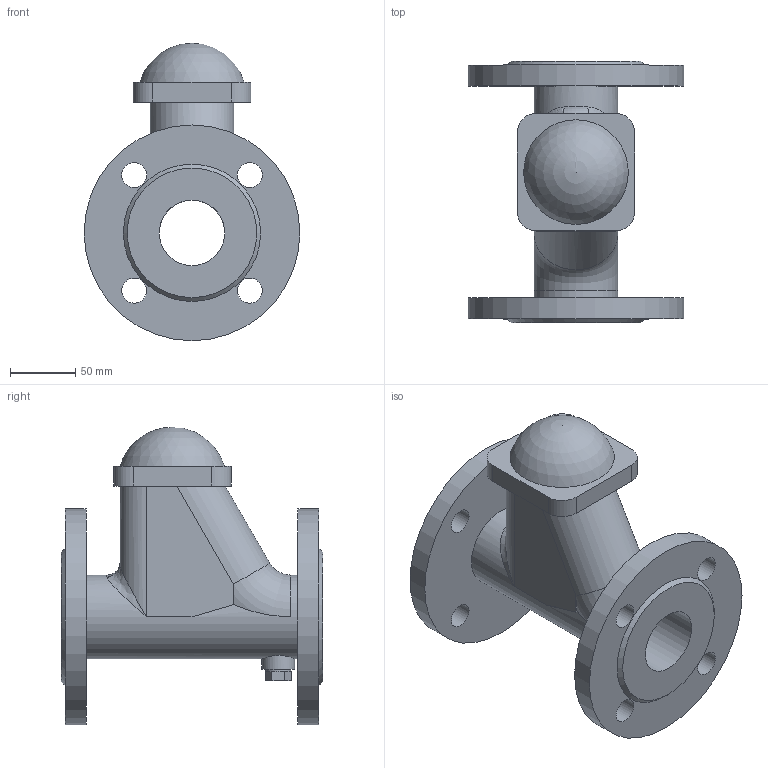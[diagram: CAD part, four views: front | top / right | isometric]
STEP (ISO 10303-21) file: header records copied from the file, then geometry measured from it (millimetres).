
FILE_DESCRIPTION(('STEP AP203'), '1');
FILE_NAME('Êëàïàí îáðàòíûé øàðîâîé ôëàíöåâûé 012F.Z DN50 PN10_16', '', ('UNSPECIFIED'), ('UNSPECIFIED'), 'ASCON STEP Converter 1.6', 'ASCON Math Kernel', '');
FILE_SCHEMA(('CONFIG_CONTROL_DESIGN'));
Length unit declared in the file: millimetre
Bounding box: 165 x 200 x 227.5 mm (x, y, z)
Volume: 1384316.3 mm3; surface area: 207510.1 mm2
Topology: 1 solids, 1 shells, 73 faces, 174 edges, 108 vertices
Faces by surface type: plane 43, cylinder 22, torus 3, bspline 2, cone 2, sphere 1
Full cylindrical faces by diameter (mm): 19 x9, 25 x1, 50 x1, 64 x1, 165 x2
Entity records: 3137 total; most frequent: CARTESIAN_POINT 870, DIRECTION 346, ORIENTED_EDGE 304, EDGE_CURVE 152, AXIS2_PLACEMENT_3D 139, EDGE_LOOP 117, VERTEX_POINT 107, FACE_BOUND 85
